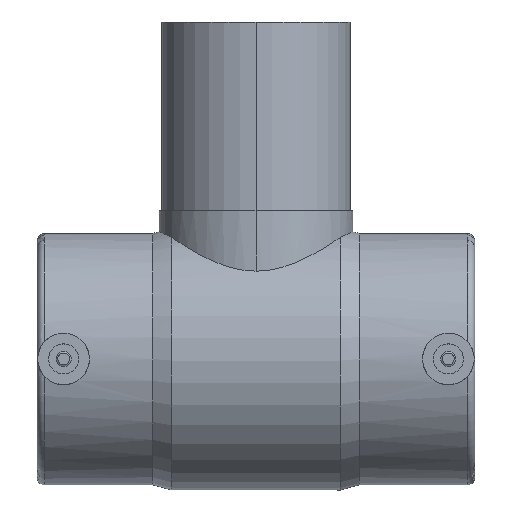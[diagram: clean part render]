
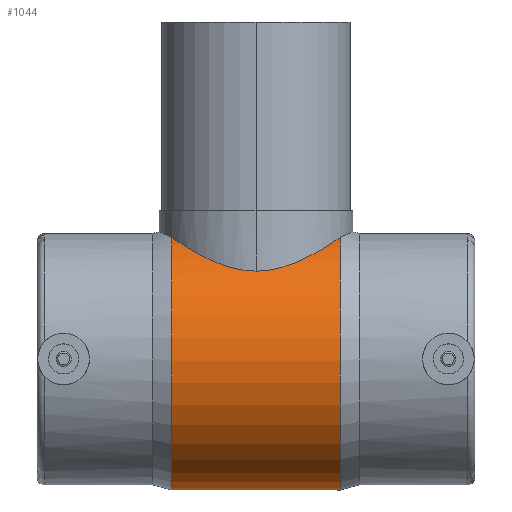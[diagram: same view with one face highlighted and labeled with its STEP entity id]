
A CAD part, top view. The second image highlights one B-rep face of the part: STEP entity #1044.
In plain terms, the highlighted cylindrical face has radius 52 mm (diameter 104 mm), a partial arc.
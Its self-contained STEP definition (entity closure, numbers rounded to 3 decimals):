
#46 = CARTESIAN_POINT ( 'NONE',  ( -58.895, 44.849, 26.326 ) ) ;
#61 = DIRECTION ( 'NONE',  ( 0., -1., 0. ) ) ;
#62 = B_SPLINE_CURVE_WITH_KNOTS ( 'NONE', 3,
 ( #1006, #837, #1743, #1114, #93, #268, #46, #2143, #2109, #2086, #1958, #1933, #1915, #1906, #1794, #1770, #1752, #1736, #1600, #1574, #1567, #1428, #1409, #1399, #1269, #1260 ),
 .UNSPECIFIED., .F., .F.,
 ( 4, 2, 2, 2, 2, 2, 2, 2, 2, 2, 2, 2, 4 ),
 ( 0.083, 0.088, 0.091, 0.094, 0.099, 0.104, 0.107, 0.11, 0.115, 0.118, 0.119, 0.12, 0.126 ),
 .UNSPECIFIED. ) ;
#68 = CARTESIAN_POINT ( 'NONE',  ( -90.611, 35.128, 38.341 ) ) ;
#78 = CARTESIAN_POINT ( 'NONE',  ( -108.211, 40.882, 32.141 ) ) ;
#93 = CARTESIAN_POINT ( 'NONE',  ( -57.251, 45.898, 24.452 ) ) ;
#126 = ORIENTED_EDGE ( 'NONE', *, *, #854, .F. ) ;
#228 = EDGE_CURVE ( 'NONE', #996, #1168, #1876, .T. ) ;
#246 = CARTESIAN_POINT ( 'NONE',  ( -93.255, 35.498, 37.999 ) ) ;
#248 = AXIS2_PLACEMENT_3D ( 'NONE', #1487, #1331, #1303 ) ;
#256 = CARTESIAN_POINT ( 'NONE',  ( -110.231, 41.966, 30.712 ) ) ;
#268 = CARTESIAN_POINT ( 'NONE',  ( -58.333, 45.204, 25.713 ) ) ;
#293 = VERTEX_POINT ( 'NONE', #1340 ) ;
#338 = CIRCLE ( 'NONE', #1288, 52. ) ;
#416 = CARTESIAN_POINT ( 'NONE',  ( -95.415, 35.95, 37.572 ) ) ;
#427 = CARTESIAN_POINT ( 'NONE',  ( -113.38, 43.782, 28.09 ) ) ;
#428 = CARTESIAN_POINT ( 'NONE',  ( -87., 34.954, 38.5 ) ) ;
#510 = EDGE_CURVE ( 'NONE', #1168, #537, #62, .T. ) ;
#537 = VERTEX_POINT ( 'NONE', #428 ) ;
#570 = EDGE_LOOP ( 'NONE', ( #878, #1055, #1016, #1160, #126 ) ) ;
#588 = CARTESIAN_POINT ( 'NONE',  ( -96.695, 36.271, 37.262 ) ) ;
#598 = CARTESIAN_POINT ( 'NONE',  ( -115.668, 45.204, 25.712 ) ) ;
#740 = CARTESIAN_POINT ( 'NONE',  ( -87.903, 34.954, 38.5 ) ) ;
#753 = CARTESIAN_POINT ( 'NONE',  ( -99.218, 36.992, 36.552 ) ) ;
#755 = DIRECTION ( 'NONE',  ( -1., 0., 0. ) ) ;
#762 = CARTESIAN_POINT ( 'NONE',  ( -117.279, 46.243, 23.794 ) ) ;
#837 = CARTESIAN_POINT ( 'NONE',  ( -54.303, 47.859, 20.399 ) ) ;
#838 = CARTESIAN_POINT ( 'NONE',  ( -120.536, -52., 0. ) ) ;
#853 = VECTOR ( 'NONE', #1482, 1000. ) ;
#854 = EDGE_CURVE ( 'NONE', #1275, #293, #338, .T. ) ;
#878 = ORIENTED_EDGE ( 'NONE', *, *, #2194, .F. ) ;
#922 = CARTESIAN_POINT ( 'NONE',  ( -103.897, 38.798, 34.635 ) ) ;
#933 = CARTESIAN_POINT ( 'NONE',  ( -119.704, 47.864, 20.385 ) ) ;
#996 = VERTEX_POINT ( 'NONE', #1806 ) ;
#1006 = CARTESIAN_POINT ( 'NONE',  ( -53.464, 48.44, 18.91 ) ) ;
#1016 = ORIENTED_EDGE ( 'NONE', *, *, #510, .T. ) ;
#1044 = ADVANCED_FACE ( 'NONE', ( #1581 ), #1162, .T. ) ;
#1055 = ORIENTED_EDGE ( 'NONE', *, *, #228, .T. ) ;
#1059 = EDGE_CURVE ( 'NONE', #537, #293, #1754, .T. ) ;
#1077 = CARTESIAN_POINT ( 'NONE',  ( -88.815, 34.989, 38.468 ) ) ;
#1089 = CARTESIAN_POINT ( 'NONE',  ( -107.511, 40.522, 32.592 ) ) ;
#1114 = CARTESIAN_POINT ( 'NONE',  ( -56.73, 46.238, 23.804 ) ) ;
#1160 = ORIENTED_EDGE ( 'NONE', *, *, #1059, .T. ) ;
#1162 = CYLINDRICAL_SURFACE ( 'NONE', #1695, 52. ) ;
#1168 = VERTEX_POINT ( 'NONE', #2156 ) ;
#1240 = CARTESIAN_POINT ( 'NONE',  ( -174., 0., 0. ) ) ;
#1250 = CARTESIAN_POINT ( 'NONE',  ( -91.498, 35.231, 38.247 ) ) ;
#1259 = CARTESIAN_POINT ( 'NONE',  ( -109.57, 41.603, 31.201 ) ) ;
#1260 = CARTESIAN_POINT ( 'NONE',  ( -87., 34.954, 38.5 ) ) ;
#1269 = CARTESIAN_POINT ( 'NONE',  ( -85.194, 34.954, 38.5 ) ) ;
#1275 = VERTEX_POINT ( 'NONE', #838 ) ;
#1288 = AXIS2_PLACEMENT_3D ( 'NONE', #1773, #755, #1946 ) ;
#1292 = LINE ( 'NONE', #1490, #853 ) ;
#1303 = DIRECTION ( 'NONE',  ( 0., -1., 0. ) ) ;
#1331 = DIRECTION ( 'NONE',  ( -1., 0., 0. ) ) ;
#1340 = CARTESIAN_POINT ( 'NONE',  ( -120.536, 48.44, 18.91 ) ) ;
#1399 = CARTESIAN_POINT ( 'NONE',  ( -83.411, 35.094, 38.374 ) ) ;
#1409 = CARTESIAN_POINT ( 'NONE',  ( -81.209, 35.427, 38.065 ) ) ;
#1417 = CARTESIAN_POINT ( 'NONE',  ( -94.124, 35.662, 37.845 ) ) ;
#1427 = CARTESIAN_POINT ( 'NONE',  ( -112.162, 43.055, 29.186 ) ) ;
#1428 = CARTESIAN_POINT ( 'NONE',  ( -80.77, 35.502, 37.995 ) ) ;
#1482 = DIRECTION ( 'NONE',  ( -1., 0., 0. ) ) ;
#1487 = CARTESIAN_POINT ( 'NONE',  ( -53.464, 0., 0. ) ) ;
#1490 = CARTESIAN_POINT ( 'NONE',  ( -174., -52., 0. ) ) ;
#1567 = CARTESIAN_POINT ( 'NONE',  ( -79.894, 35.666, 37.841 ) ) ;
#1574 = CARTESIAN_POINT ( 'NONE',  ( -79.457, 35.756, 37.756 ) ) ;
#1581 = FACE_OUTER_BOUND ( 'NONE', #570, .T. ) ;
#1587 = CARTESIAN_POINT ( 'NONE',  ( -95.843, 36.052, 37.473 ) ) ;
#1599 = CARTESIAN_POINT ( 'NONE',  ( -115.108, 44.851, 26.322 ) ) ;
#1600 = CARTESIAN_POINT ( 'NONE',  ( -78.157, 36.045, 37.481 ) ) ;
#1695 = AXIS2_PLACEMENT_3D ( 'NONE', #1240, #2100, #61 ) ;
#1736 = CARTESIAN_POINT ( 'NONE',  ( -77.308, 36.264, 37.27 ) ) ;
#1743 = CARTESIAN_POINT ( 'NONE',  ( -55.226, 47.231, 21.805 ) ) ;
#1752 = CARTESIAN_POINT ( 'NONE',  ( -74.811, 36.984, 36.56 ) ) ;
#1754 = B_SPLINE_CURVE_WITH_KNOTS ( 'NONE', 3,
 ( #1932, #740, #1077, #68, #1250, #246, #1417, #416, #1587, #588, #1769, #753, #1943, #922, #2122, #1089, #78, #1259, #256, #1427, #427, #1599, #598, #1780, #762, #1957, #933, #2133 ),
 .UNSPECIFIED., .F., .F.,
 ( 4, 2, 2, 2, 2, 2, 2, 2, 2, 2, 2, 2, 2, 4 ),
 ( 0.126, 0.128, 0.131, 0.134, 0.135, 0.136, 0.142, 0.147, 0.15, 0.152, 0.158, 0.16, 0.163, 0.168 ),
 .UNSPECIFIED. ) ;
#1769 = CARTESIAN_POINT ( 'NONE',  ( -97.119, 36.387, 37.149 ) ) ;
#1770 = CARTESIAN_POINT ( 'NONE',  ( -73.21, 37.549, 35.985 ) ) ;
#1773 = CARTESIAN_POINT ( 'NONE',  ( -120.536, 0., 0. ) ) ;
#1780 = CARTESIAN_POINT ( 'NONE',  ( -116.753, 45.9, 24.448 ) ) ;
#1794 = CARTESIAN_POINT ( 'NONE',  ( -70.889, 38.481, 34.977 ) ) ;
#1806 = CARTESIAN_POINT ( 'NONE',  ( -53.464, -52., 0. ) ) ;
#1876 = CIRCLE ( 'NONE', #248, 52. ) ;
#1906 = CARTESIAN_POINT ( 'NONE',  ( -70.128, 38.807, 34.616 ) ) ;
#1915 = CARTESIAN_POINT ( 'NONE',  ( -68.633, 39.48, 33.847 ) ) ;
#1932 = CARTESIAN_POINT ( 'NONE',  ( -87., 34.954, 38.5 ) ) ;
#1933 = CARTESIAN_POINT ( 'NONE',  ( -67.905, 39.824, 33.441 ) ) ;
#1943 = CARTESIAN_POINT ( 'NONE',  ( -100.818, 37.559, 35.974 ) ) ;
#1946 = DIRECTION ( 'NONE',  ( 0., -1., 0. ) ) ;
#1957 = CARTESIAN_POINT ( 'NONE',  ( -118.786, 47.239, 21.788 ) ) ;
#1958 = CARTESIAN_POINT ( 'NONE',  ( -65.776, 40.874, 32.164 ) ) ;
#2086 = CARTESIAN_POINT ( 'NONE',  ( -64.428, 41.595, 31.232 ) ) ;
#2100 = DIRECTION ( 'NONE',  ( -1., 0., 0. ) ) ;
#2109 = CARTESIAN_POINT ( 'NONE',  ( -61.858, 43.044, 29.203 ) ) ;
#2122 = CARTESIAN_POINT ( 'NONE',  ( -105.374, 39.469, 33.873 ) ) ;
#2133 = CARTESIAN_POINT ( 'NONE',  ( -120.536, 48.44, 18.91 ) ) ;
#2143 = CARTESIAN_POINT ( 'NONE',  ( -60.636, 43.772, 28.106 ) ) ;
#2156 = CARTESIAN_POINT ( 'NONE',  ( -53.464, 48.44, 18.91 ) ) ;
#2194 = EDGE_CURVE ( 'NONE', #996, #1275, #1292, .T. ) ;
